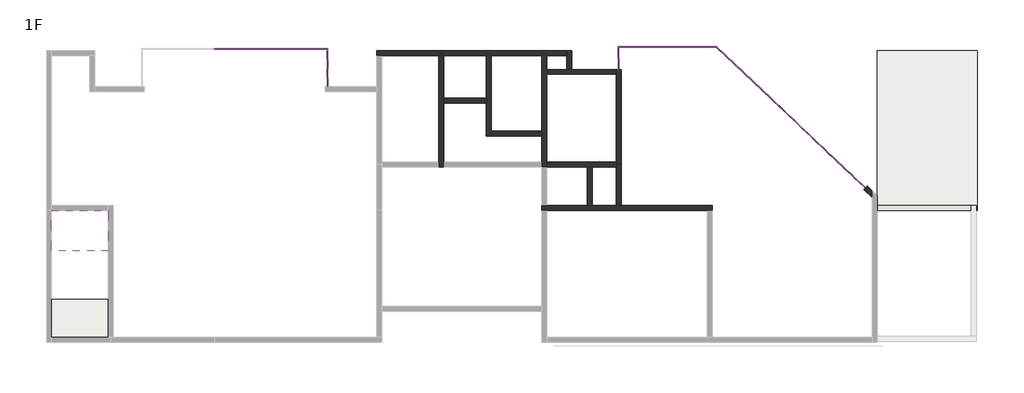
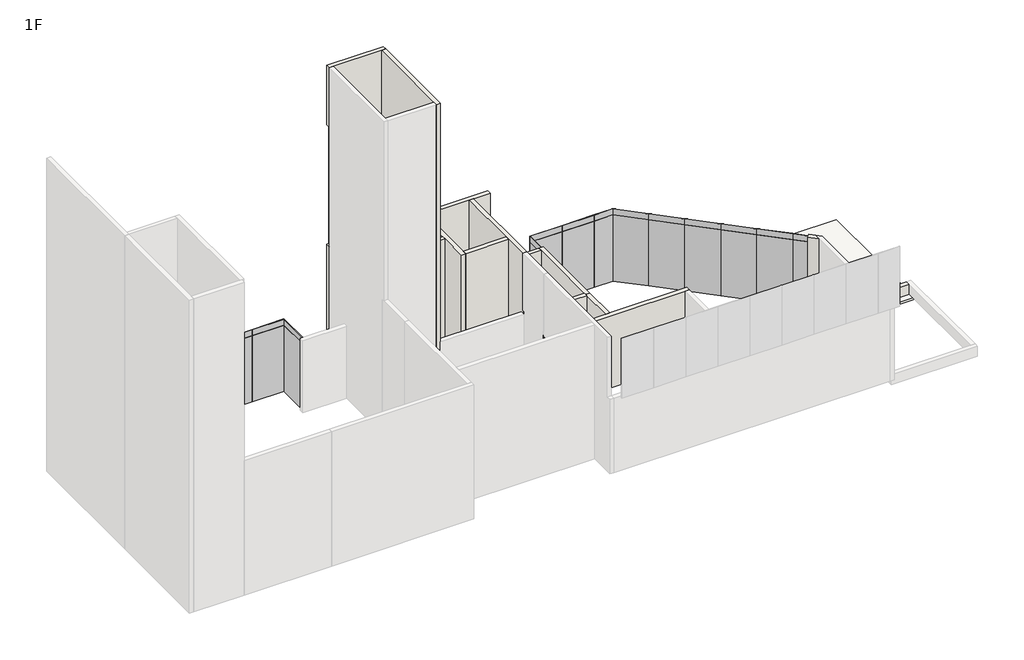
# One storey, part 2 of 2: 30 plates, 17 walls, 2 slabs, 1 roof.
"""IFC4 building model written with IfcOpenShell, lengths in millimetres."""

from ifc_helpers import new_model, si_unit, frame, origin, origin_with_axes, place, context, project, spatial, polyline, outline, extrude, faceted_brep, transform, mapped, element, save
from components import plate_0c29ff76, plate_bc78ace2, plate_c1cd2605, plate_ada13676, plate_6fba4545, plate_74756071, plate_56329b22, plate_8ec1f512, plate_21902d22, plate_5becea1c, plate_f1ae9960

model = new_model("IFC4")

# Units and contexts
model_context = context("Model", 3, world=origin())
ifc_project = project(units=[si_unit("LENGTHUNIT", "METRE", prefix="MILLI")], contexts=[model_context])

# Site, building, storey
site = spatial("IfcSite", under=ifc_project)
building = spatial("IfcBuilding", under=site)
storey = spatial("IfcBuildingStorey", under=building, Name="1F", Elevation=0.0)

# Plates
placement = place(None, origin())
element("IfcPlate", 1, ObjectType="系统嵌板 : 玻璃", at=placement, inside=storey, context=model_context, shape_type="SweptSolid", body=[
    extrude(outline(polyline([(24897.1295712, 7819.9870919), (23569.8153734, 9079.8033564), (23587.0259781, 9097.936064), (24914.3401759, 7838.1197995), (24897.1295712, 7819.9870919)])), frame((0.0, 0.0, 4000.0), z_axis=(0.0, 0.0, 1.0), x_axis=(1.0, 0.0, 0.0)), (0.0, 0.0, 1.0), 350.0),
])
element("IfcPlate", 2, ObjectType="系统嵌板 : 玻璃", at=placement, inside=storey, context=model_context, shape_type="SweptSolid", body=[
    extrude(outline(polyline([(26224.443769, 6560.1708273), (24897.1295712, 7819.9870919), (24914.3401759, 7838.1197995), (26241.6543737, 6578.303535), (26224.443769, 6560.1708273)])), frame((0.0, 0.0, 4000.0), z_axis=(0.0, 0.0, 1.0), x_axis=(1.0, 0.0, 0.0)), (0.0, 0.0, 1.0), 350.0),
])
plate_shape = plate_0c29ff76(model_context)
element("IfcPlate", 3, ObjectType="系统嵌板 : 玻璃", at=placement, inside=storey, context=model_context, shape_type="MappedRepresentation", body=[
    mapped(plate_shape, transform((3824.5620884, 8988.8697102, 0.0), x_axis=(-1.0, 0.0, 0.0), y_axis=(0.0, -1.0, 0.0), z_axis=(0.0, 0.0, 1.0))),
])
element("IfcPlate", 4, ObjectType="系统嵌板 : 玻璃", at=placement, inside=storey, context=model_context, shape_type="MappedRepresentation", body=[
    mapped(plate_shape, transform((1994.5620884, 8988.8697102, 0.0), x_axis=(-1.0, 0.0, 0.0), y_axis=(0.0, -1.0, 0.0), z_axis=(0.0, 0.0, 1.0))),
])
element("IfcPlate", 5, ObjectType="系统嵌板 : 玻璃", at=placement, inside=storey, context=model_context, shape_type="MappedRepresentation", body=[
    mapped(plate_shape, transform((164.5620884, 8988.8697102, 0.0), x_axis=(-1.0, 0.0, 0.0), y_axis=(0.0, -1.0, 0.0), z_axis=(0.0, 0.0, 1.0))),
])
element("IfcPlate", 6, ObjectType="系统嵌板 : 玻璃", at=placement, inside=storey, context=model_context, shape_type="MappedRepresentation", body=[
    mapped(plate_shape, transform((4739.5620884, 8063.8697102, 0.0), x_axis=(0.0, 1.0, 0.0), y_axis=(-1.0, 0.0, 0.0), z_axis=(0.0, 0.0, 1.0))),
])
element("IfcPlate", 7, ObjectType="系统嵌板 : 玻璃", at=placement, inside=storey, context=model_context, shape_type="MappedRepresentation", body=[
    mapped(plate_shape, transform((19754.5620884, 9088.8697102, 0.0), x_axis=(1.0, 0.0, 0.0), y_axis=(0.0, 1.0, 0.0), z_axis=(0.0, 0.0, 1.0))),
])
element("IfcPlate", 8, ObjectType="系统嵌板 : 玻璃", at=placement, inside=storey, context=model_context, shape_type="MappedRepresentation", body=[
    mapped(plate_shape, transform((21584.5620884, 9088.8697102, 0.0), x_axis=(1.0, 0.0, 0.0), y_axis=(0.0, 1.0, 0.0), z_axis=(0.0, 0.0, 1.0))),
])
element("IfcPlate", 9, ObjectType="系统嵌板 : 玻璃", at=placement, inside=storey, context=model_context, shape_type="MappedRepresentation", body=[
    mapped(plate_shape, transform((24242.0777747, 8458.9615779, 0.0), x_axis=(0.7253083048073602, -0.6884241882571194, 0.0), y_axis=(0.6884241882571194, 0.7253083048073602, 0.0), z_axis=(0.0, 0.0, 1.0))),
])
element("IfcPlate", 10, ObjectType="系统嵌板 : 玻璃", at=placement, inside=storey, context=model_context, shape_type="MappedRepresentation", body=[
    mapped(plate_shape, transform((25569.3919725, 7199.1453134, 0.0), x_axis=(0.7253083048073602, -0.6884241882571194, 0.0), y_axis=(0.6884241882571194, 0.7253083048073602, 0.0), z_axis=(0.0, 0.0, 1.0))),
])
element("IfcPlate", 11, ObjectType="系统嵌板 : 玻璃", at=placement, inside=storey, context=model_context, shape_type="MappedRepresentation", body=[
    mapped(plate_shape, transform((26896.7061703, 5939.3290489, 0.0), x_axis=(0.7253083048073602, -0.6884241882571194, 0.0), y_axis=(0.6884241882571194, 0.7253083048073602, 0.0), z_axis=(0.0, 0.0, 1.0))),
])
element("IfcPlate", 12, ObjectType="系统嵌板 : 玻璃", at=placement, inside=storey, context=model_context, shape_type="MappedRepresentation", body=[
    mapped(plate_shape, transform((28224.0203681, 4679.5127844, 0.0), x_axis=(0.7253083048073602, -0.6884241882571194, 0.0), y_axis=(0.6884241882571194, 0.7253083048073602, 0.0), z_axis=(0.0, 0.0, 1.0))),
])
element("IfcPlate", 13, ObjectType="系统嵌板 : 玻璃", at=placement, inside=storey, context=model_context, shape_type="MappedRepresentation", body=[
    mapped(plate_shape, transform((29551.3345659, 3419.6965199, 0.0), x_axis=(0.7253083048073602, -0.6884241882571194, 0.0), y_axis=(0.6884241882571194, 0.7253083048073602, 0.0), z_axis=(0.0, 0.0, 1.0))),
])
plate_2_shape = plate_bc78ace2(model_context)
element("IfcPlate", 14, ObjectType="系统嵌板 : 玻璃", at=placement, inside=storey, context=model_context, shape_type="MappedRepresentation", body=[
    mapped(plate_2_shape, transform((4739.5620884, 8983.8697102, 0.0), x_axis=(0.0, 1.0, 0.0), y_axis=(-1.0, 0.0, 0.0), z_axis=(0.0, 0.0, 1.0))),
])
plate_3_shape = plate_c1cd2605(model_context)
element("IfcPlate", 15, ObjectType="系统嵌板 : 玻璃", at=placement, inside=storey, context=model_context, shape_type="MappedRepresentation", body=[
    mapped(plate_3_shape, transform((18839.5620884, 8538.8697102, 0.0), x_axis=(0.0, -1.0, 0.0), y_axis=(1.0, 0.0, 0.0), z_axis=(0.0, 0.0, 1.0))),
])
plate_4_shape = plate_ada13676(model_context)
element("IfcPlate", 16, ObjectType="系统嵌板 : 玻璃", at=placement, inside=storey, context=model_context, shape_type="MappedRepresentation", body=[
    mapped(plate_4_shape, transform((30493.6372117, 2525.3128077, 0.0), x_axis=(0.7253083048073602, -0.6884241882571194, 0.0), y_axis=(0.6884241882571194, 0.7253083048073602, 0.0), z_axis=(0.0, 0.0, 1.0))),
])
plate_5_shape = plate_6fba4545(model_context)
element("IfcPlate", 17, ObjectType="系统嵌板 : 玻璃", at=placement, inside=storey, context=model_context, shape_type="MappedRepresentation", body=[
    mapped(plate_5_shape, transform((23038.9913821, 9088.8697102, 0.0), x_axis=(1.0, 0.0, 0.0), y_axis=(0.0, 1.0, 0.0), z_axis=(0.0, 0.0, 1.0))),
])
plate_6_shape = plate_74756071(model_context)
element("IfcPlate", 18, ObjectType="系统嵌板 : 玻璃", at=placement, inside=storey, context=model_context, shape_type="MappedRepresentation", body=[
    mapped(plate_6_shape, transform((3824.5620884, 8988.8697102, 4000.0), x_axis=(-1.0, 0.0, 0.0), y_axis=(0.0, -1.0, 0.0), z_axis=(0.0, 0.0, 1.0))),
])
element("IfcPlate", 19, ObjectType="系统嵌板 : 玻璃", at=placement, inside=storey, context=model_context, shape_type="MappedRepresentation", body=[
    mapped(plate_6_shape, transform((1994.5620884, 8988.8697102, 4000.0), x_axis=(-1.0, 0.0, 0.0), y_axis=(0.0, -1.0, 0.0), z_axis=(0.0, 0.0, 1.0))),
])
element("IfcPlate", 20, ObjectType="系统嵌板 : 玻璃", at=placement, inside=storey, context=model_context, shape_type="MappedRepresentation", body=[
    mapped(plate_6_shape, transform((164.5620884, 8988.8697102, 4000.0), x_axis=(-1.0, 0.0, 0.0), y_axis=(0.0, -1.0, 0.0), z_axis=(0.0, 0.0, 1.0))),
])
element("IfcPlate", 21, ObjectType="系统嵌板 : 玻璃", at=placement, inside=storey, context=model_context, shape_type="MappedRepresentation", body=[
    mapped(plate_6_shape, transform((19754.5620884, 9088.8697102, 4000.0), x_axis=(1.0, 0.0, 0.0), y_axis=(0.0, 1.0, 0.0), z_axis=(0.0, 0.0, 1.0))),
])
element("IfcPlate", 22, ObjectType="系统嵌板 : 玻璃", at=placement, inside=storey, context=model_context, shape_type="MappedRepresentation", body=[
    mapped(plate_6_shape, transform((21584.5620884, 9088.8697102, 4000.0), x_axis=(1.0, 0.0, 0.0), y_axis=(0.0, 1.0, 0.0), z_axis=(0.0, 0.0, 1.0))),
])
element("IfcPlate", 23, ObjectType="系统嵌板 : 玻璃", at=placement, inside=storey, context=model_context, shape_type="MappedRepresentation", body=[
    mapped(plate_6_shape, transform((26896.7061703, 5939.3290489, 4000.0), x_axis=(0.7253083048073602, -0.6884241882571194, 0.0), y_axis=(0.6884241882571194, 0.7253083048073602, 0.0), z_axis=(0.0, 0.0, 1.0))),
])
element("IfcPlate", 24, ObjectType="系统嵌板 : 玻璃", at=placement, inside=storey, context=model_context, shape_type="MappedRepresentation", body=[
    mapped(plate_6_shape, transform((28224.0203681, 4679.5127844, 4000.0), x_axis=(0.7253083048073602, -0.6884241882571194, 0.0), y_axis=(0.6884241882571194, 0.7253083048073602, 0.0), z_axis=(0.0, 0.0, 1.0))),
])
element("IfcPlate", 25, ObjectType="系统嵌板 : 玻璃", at=placement, inside=storey, context=model_context, shape_type="MappedRepresentation", body=[
    mapped(plate_6_shape, transform((29551.3345659, 3419.6965199, 4000.0), x_axis=(0.7253083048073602, -0.6884241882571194, 0.0), y_axis=(0.6884241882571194, 0.7253083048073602, 0.0), z_axis=(0.0, 0.0, 1.0))),
])
plate_7_shape = plate_56329b22(model_context)
element("IfcPlate", 26, ObjectType="系统嵌板 : 玻璃", at=placement, inside=storey, context=model_context, shape_type="MappedRepresentation", body=[
    mapped(plate_7_shape, transform((4739.5620884, 8983.8697102, 4000.0), x_axis=(0.0, 1.0, 0.0), y_axis=(-1.0, 0.0, 0.0), z_axis=(0.0, 0.0, 1.0))),
])
plate_8_shape = plate_8ec1f512(model_context)
element("IfcPlate", 27, ObjectType="系统嵌板 : 玻璃", at=placement, inside=storey, context=model_context, shape_type="MappedRepresentation", body=[
    mapped(plate_8_shape, transform((4739.5620884, 8063.8697102, 4000.0), x_axis=(0.0, 1.0, 0.0), y_axis=(-1.0, 0.0, 0.0), z_axis=(0.0, 0.0, 1.0))),
])
plate_9_shape = plate_21902d22(model_context)
element("IfcPlate", 28, ObjectType="系统嵌板 : 玻璃", at=placement, inside=storey, context=model_context, shape_type="MappedRepresentation", body=[
    mapped(plate_9_shape, transform((23038.9913821, 9088.8697102, 4000.0), x_axis=(1.0, 0.0, 0.0), y_axis=(0.0, 1.0, 0.0), z_axis=(0.0, 0.0, 1.0))),
])
plate_10_shape = plate_5becea1c(model_context)
element("IfcPlate", 29, ObjectType="系统嵌板 : 玻璃", at=placement, inside=storey, context=model_context, shape_type="MappedRepresentation", body=[
    mapped(plate_10_shape, transform((18839.5620884, 8538.8697102, 4000.0), x_axis=(0.0, -1.0, 0.0), y_axis=(1.0, 0.0, 0.0), z_axis=(0.0, 0.0, 1.0))),
])
plate_11_shape = plate_f1ae9960(model_context)
element("IfcPlate", 30, ObjectType="系统嵌板 : 玻璃", at=placement, inside=storey, context=model_context, shape_type="MappedRepresentation", body=[
    mapped(plate_11_shape, transform((30493.6372117, 2525.3128077, 4000.0), x_axis=(0.7253083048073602, -0.6884241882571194, 0.0), y_axis=(0.6884241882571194, 0.7253083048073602, 0.0), z_axis=(0.0, 0.0, 1.0))),
])

# Roof
element("IfcRoof", 31, ObjectType="常规 - 120", at=placement, inside=storey, context=model_context, shape_type="SweptSolid", body=[
    extrude(outline(polyline([(36219.5620884, 8888.8697102), (36219.5620884, 1138.8697102), (31359.5620884, 1138.8697102), (31359.5620884, 8888.8697102), (36219.5620884, 8888.8697102)])), frame((0.0, 0.0, -720.0), z_axis=(0.0, 0.0, 1.0), x_axis=(1.0, 0.0, 0.0)), (0.0, 0.0, 1.0), 120.0),
])

# Slabs
element("IfcSlab", 32, ObjectType="常规 - 150mm", at=placement, inside=storey, context=model_context, shape_type="SweptSolid", body=[
    extrude(outline(polyline([(-5880.4379116, -3161.1302898), (-5880.4379116, -5011.1302898), (-8640.4379116, -5011.1302898), (-8640.4379116, -3161.1302898), (-5880.4379116, -3161.1302898)])), frame((0.0, 0.0, -150.0), z_axis=(0.0, 0.0, 1.0), x_axis=(1.0, 0.0, 0.0)), (0.0, 0.0, 1.0), 150.0),
])
element("IfcSlab", 33, ObjectType="常规 - 150mm", at=placement, inside=storey, context=model_context, shape_type="SweptSolid", body=[
    extrude(outline(polyline([(-8640.4379116, -821.1302898), (-8640.4379116, 1148.8697102), (-5880.4379116, 1148.8697102), (-5880.4379116, -821.1302898), (-8640.4379116, -821.1302898)])), frame((0.0, 0.0, 1450.0), z_axis=(0.0, 0.0, 1.0), x_axis=(1.0, 0.0, 0.0)), (0.0, 0.0, 1.0), 150.0),
])

# Walls
element("IfcWall", 34, ObjectType="常规 - 240mm", at=placement, inside=storey, context=model_context, shape_type="Brep", body=[
    faceted_brep([(16319.5620884, 8888.8697102, 0.0), (15119.5620884, 8888.8697102, 0.0), (15119.5620884, 8888.8697102, 4350.0), (16319.5620884, 8888.8697102, 4350.0), (16319.5620884, 8648.8697102, 0.0), (16319.5620884, 8648.8697102, 4350.0), (15119.5620884, 8648.8697102, 4350.0), (15119.5620884, 8648.8697102, 0.0), (15359.5620884, 8648.8697102, 0.0)], [[[0, 1, 2, 3]], [[4, 5, 6, 7, 8]], [[1, 0, 4, 8, 7]], [[3, 2, 6, 5]], [[2, 1, 7, 6]], [[0, 3, 5, 4]]]),
])
element("IfcWall", 35, ObjectType="常规 - 240mm 2", at=placement, inside=storey, context=model_context, shape_type="Brep", body=[
    faceted_brep([(10119.5620884, 8648.8697102, 18900.0), (10119.5620884, 8648.8697102, 0.0), (10119.5620884, 3488.8697102, 0.0), (10119.5620884, 3248.8697102, 0.0), (10119.5620884, 3248.8697102, 18900.0), (10119.5620884, 3488.8697102, 18900.0), (10359.5620884, 8648.8697102, 0.0), (10359.5620884, 8648.8697102, 15300.0), (10359.5620884, 8648.8697102, 18900.0), (10359.5620884, 3248.8697102, 18900.0), (10359.5620884, 3248.8697102, 8100.0), (10359.5620884, 3248.8697102, 4500.0), (10359.5620884, 3248.8697102, 0.0), (10359.5620884, 3488.8697102, 0.0), (10359.5620884, 6348.8697102, 0.0), (10359.5620884, 6588.8697102, 0.0), (10239.5620884, 8648.8697102, 0.0)], [[[0, 1, 2, 3, 4, 5]], [[6, 7, 8, 9, 10, 11, 12, 13, 14, 15]], [[3, 2, 1, 16, 6, 15, 14, 13, 12]], [[0, 5, 4, 9, 8]], [[0, 8, 7, 6, 16, 1]], [[3, 12, 11, 10, 9, 4]]]),
])
element("IfcWall", 36, ObjectType="常规 - 240mm", at=placement, inside=storey, context=model_context, shape_type="Brep", body=[
    faceted_brep([(18719.5620884, 3488.8697102, 0.0), (15359.5620884, 3488.8697102, 0.0), (15359.5620884, 3488.8697102, 4350.0), (18719.5620884, 3488.8697102, 4350.0), (18719.5620884, 3248.8697102, 0.0), (18719.5620884, 3248.8697102, 4350.0), (17559.5620884, 3248.8697102, 4350.0), (17319.5620884, 3248.8697102, 4350.0), (15359.5620884, 3248.8697102, 4350.0), (15359.5620884, 3248.8697102, 0.0), (17319.5620884, 3248.8697102, 0.0), (17559.5620884, 3248.8697102, 0.0), (18719.5620884, 3368.8697102, 0.0), (18719.5620884, 3368.8697102, 4350.0)], [[[0, 1, 2, 3]], [[4, 5, 6, 7, 8, 9, 10, 11]], [[1, 0, 12, 4, 11, 10, 9]], [[0, 3, 13, 5, 4, 12]], [[2, 1, 9, 8]], [[3, 2, 8, 7, 6, 5, 13]]]),
])
element("IfcWall", 37, ObjectType="常规 - 240mm 2", at=placement, inside=storey, context=model_context, shape_type="SweptSolid", body=[
    extrude(outline(polyline([(10359.5620884, 6588.8697102), (12419.5620884, 6588.8697102), (12419.5620884, 6348.8697102), (10359.5620884, 6348.8697102), (10359.5620884, 6588.8697102)])), origin_with_axes(), (0.0, 0.0, 1.0), 8100.0),
])
element("IfcWall", 38, ObjectType="常规 - 240mm", at=placement, inside=storey, context=model_context, shape_type="Brep", body=[
    faceted_brep([(15119.5620884, 8648.8697102, 0.0), (15119.5620884, 4988.8697102, 0.0), (15119.5620884, 4748.8697102, 0.0), (15119.5620884, 3488.8697102, 0.0), (15119.5620884, 3248.8697102, 0.0), (15119.5620884, 3248.8697102, 4500.0), (15119.5620884, 3248.8697102, 4650.0), (15119.5620884, 3368.8697102, 4650.0), (15119.5620884, 3368.8697102, 8100.0), (15119.5620884, 4748.8697102, 8100.0), (15119.5620884, 4988.8697102, 8100.0), (15119.5620884, 8648.8697102, 8100.0), (15119.5620884, 8648.8697102, 4350.0), (15359.5620884, 8648.8697102, 0.0), (15359.5620884, 8648.8697102, 8100.0), (15359.5620884, 3368.8697102, 8100.0), (15359.5620884, 3368.8697102, 4650.0), (15359.5620884, 3248.8697102, 4650.0), (15359.5620884, 3248.8697102, 4350.0), (15359.5620884, 3248.8697102, 0.0), (15359.5620884, 3488.8697102, 0.0), (15359.5620884, 7748.8697102, 0.0), (15359.5620884, 7988.8697102, 0.0)], [[[0, 1, 2, 3, 4, 5, 6, 7, 8, 9, 10, 11, 12]], [[13, 14, 15, 16, 17, 18, 19, 20, 21, 22]], [[4, 3, 2, 1, 0, 13, 22, 21, 20, 19]], [[11, 10, 9, 8, 15, 14]], [[0, 12, 11, 14, 13]], [[8, 7, 16, 15]], [[16, 7, 6, 17]], [[4, 19, 18, 17, 6, 5]]]),
])
element("IfcWall", 39, ObjectType="常规 - 240mm", at=placement, inside=storey, context=model_context, shape_type="Brep", body=[
    faceted_brep([(12419.5620884, 8648.8697102, 0.0), (12419.5620884, 6588.8697102, 0.0), (12419.5620884, 6348.8697102, 0.0), (12419.5620884, 4748.8697102, 0.0), (12419.5620884, 4748.8697102, 8100.0), (12419.5620884, 6348.8697102, 8100.0), (12419.5620884, 6588.8697102, 8100.0), (12419.5620884, 8648.8697102, 8100.0), (12659.5620884, 8648.8697102, 0.0), (12659.5620884, 8648.8697102, 8100.0), (12659.5620884, 4988.8697102, 8100.0), (12659.5620884, 4748.8697102, 8100.0), (12659.5620884, 4748.8697102, 0.0), (12659.5620884, 4988.8697102, 0.0)], [[[0, 1, 2, 3, 4, 5, 6, 7]], [[8, 9, 10, 11, 12, 13]], [[3, 2, 1, 0, 8, 13, 12]], [[7, 6, 5, 4, 11, 10, 9]], [[4, 3, 12, 11]], [[0, 7, 9, 8]]]),
])
element("IfcWall", 40, ObjectType="常规 - 240mm 2", at=placement, inside=storey, context=model_context, shape_type="Brep", body=[
    faceted_brep([(23359.5620884, 1388.8697102, 0.0), (18959.5620884, 1388.8697102, 0.0), (18719.5620884, 1388.8697102, 0.0), (17559.5620884, 1388.8697102, 0.0), (17319.5620884, 1388.8697102, 0.0), (15359.5620884, 1388.8697102, 0.0), (15119.5620884, 1388.8697102, 0.0), (15119.5620884, 1388.8697102, 4350.0), (17319.5620884, 1388.8697102, 4350.0), (17559.5620884, 1388.8697102, 4350.0), (18719.5620884, 1388.8697102, 4350.0), (18959.5620884, 1388.8697102, 4350.0), (23359.5620884, 1388.8697102, 4350.0), (23359.5620884, 1148.8697102, 0.0), (23359.5620884, 1148.8697102, 4350.0), (23119.5620884, 1148.8697102, 4350.0), (15359.5620884, 1148.8697102, 4350.0), (15119.5620884, 1148.8697102, 4350.0), (15119.5620884, 1148.8697102, 0.0), (15359.5620884, 1148.8697102, 0.0), (23119.5620884, 1148.8697102, 0.0), (15119.5620884, 1268.8697102, 4350.0)], [[[0, 1, 2, 3, 4, 5, 6, 7, 8, 9, 10, 11, 12]], [[13, 14, 15, 16, 17, 18, 19, 20]], [[6, 5, 4, 3, 2, 1, 0, 13, 20, 19, 18]], [[0, 12, 14, 13]], [[7, 6, 18, 17, 21]], [[12, 11, 10, 9, 8, 7, 21, 17, 16, 15, 14]]]),
])
element("IfcWall", 41, ObjectType="常规 - 240mm", at=placement, inside=storey, context=model_context, shape_type="Brep", body=[
    faceted_brep([(16319.5620884, 8888.8697102, 0.0), (16319.5620884, 8648.8697102, 0.0), (16319.5620884, 7988.8697102, 0.0), (16319.5620884, 7988.8697102, 4350.0), (16319.5620884, 8648.8697102, 4350.0), (16319.5620884, 8888.8697102, 4350.0), (16559.5620884, 8888.8697102, 0.0), (16559.5620884, 8888.8697102, 4350.0), (16559.5620884, 7988.8697102, 4350.0), (16559.5620884, 7988.8697102, 0.0)], [[[0, 1, 2, 3, 4, 5]], [[6, 7, 8, 9]], [[2, 1, 0, 6, 9]], [[3, 2, 9, 8]], [[5, 4, 3, 8, 7]], [[0, 5, 7, 6]]]),
])
element("IfcWall", 42, ObjectType="常规 - 240mm", at=placement, inside=storey, context=model_context, shape_type="Brep", body=[
    faceted_brep([(15359.5620884, 7748.8697102, 0.0), (18719.5620884, 7748.8697102, 0.0), (18719.5620884, 7748.8697102, 4350.0), (15359.5620884, 7748.8697102, 4350.0), (15359.5620884, 7988.8697102, 0.0), (15359.5620884, 7988.8697102, 4350.0), (16319.5620884, 7988.8697102, 4350.0), (16559.5620884, 7988.8697102, 4350.0), (18719.5620884, 7988.8697102, 4350.0), (18719.5620884, 7988.8697102, 0.0), (16559.5620884, 7988.8697102, 0.0), (16319.5620884, 7988.8697102, 0.0)], [[[0, 1, 2, 3]], [[4, 5, 6, 7, 8, 9, 10, 11]], [[1, 0, 4, 11, 10, 9]], [[2, 1, 9, 8]], [[0, 3, 5, 4]], [[3, 2, 8, 7, 6, 5]]]),
])
element("IfcWall", 43, ObjectType="常规 - 240mm", at=placement, inside=storey, context=model_context, shape_type="SweptSolid", body=[
    extrude(outline(polyline([(17319.5620884, 1388.8697102), (17319.5620884, 3248.8697102), (17559.5620884, 3248.8697102), (17559.5620884, 1388.8697102), (17319.5620884, 1388.8697102)])), origin_with_axes(), (0.0, 0.0, 1.0), 4350.0),
])
element("IfcWall", 44, ObjectType="常规 - 240mm", at=placement, inside=storey, context=model_context, shape_type="Brep", body=[
    faceted_brep([(18719.5620884, 7988.8697102, 0.0), (18719.5620884, 7748.8697102, 0.0), (18719.5620884, 3488.8697102, 0.0), (18719.5620884, 3368.8697102, 0.0), (18719.5620884, 3368.8697102, 4350.0), (18719.5620884, 3488.8697102, 4350.0), (18719.5620884, 7748.8697102, 4350.0), (18719.5620884, 7988.8697102, 4350.0), (18959.5620884, 7988.8697102, 0.0), (18959.5620884, 7988.8697102, 4350.0), (18959.5620884, 3368.8697102, 4350.0), (18959.5620884, 3368.8697102, 0.0)], [[[0, 1, 2, 3, 4, 5, 6, 7]], [[8, 9, 10, 11]], [[3, 2, 1, 0, 8, 11]], [[4, 3, 11, 10]], [[0, 7, 9, 8]], [[7, 6, 5, 4, 10, 9]]]),
])
element("IfcWall", 45, ObjectType="常规 - 240mm", at=placement, inside=storey, context=model_context, shape_type="Brep", body=[
    faceted_brep([(18719.5620884, 3368.8697102, 0.0), (18719.5620884, 3248.8697102, 0.0), (18719.5620884, 1388.8697102, 0.0), (18719.5620884, 1388.8697102, 4350.0), (18719.5620884, 3248.8697102, 4350.0), (18719.5620884, 3368.8697102, 4350.0), (18959.5620884, 3368.8697102, 0.0), (18959.5620884, 3368.8697102, 4350.0), (18959.5620884, 1388.8697102, 4350.0), (18959.5620884, 1388.8697102, 0.0)], [[[0, 1, 2, 3, 4, 5]], [[6, 7, 8, 9]], [[2, 1, 0, 6, 9]], [[0, 5, 7, 6]], [[3, 2, 9, 8]], [[5, 4, 3, 8, 7]]]),
])
element("IfcWall", 46, ObjectType="常规 - 240mm 2", at=placement, inside=storey, context=model_context, shape_type="SweptSolid", body=[
    extrude(outline(polyline([(31119.5620884, 1765.7712149), (30708.0946871, 2156.3142569), (30873.3164923, 2330.3882501), (31119.5620884, 2096.6649858), (31119.5620884, 1765.7712149)])), origin_with_axes(), (0.0, 0.0, 1.0), 4350.0),
])
element("IfcWall", 47, ObjectType="常规 - 240mm", at=placement, inside=storey, context=model_context, shape_type="Brep", body=[
    faceted_brep([(10239.5620884, 8888.8697102, 15300.0), (10239.5620884, 8888.8697102, 8100.0), (10239.5620884, 8888.8697102, 0.0), (7119.5620884, 8888.8697102, 0.0), (7119.5620884, 8888.8697102, 8100.0), (7239.5620884, 8888.8697102, 8100.0), (7239.5620884, 8888.8697102, 15300.0), (7119.5620884, 8888.8697102, 15300.0), (7119.5620884, 8888.8697102, 18900.0), (10359.5620884, 8888.8697102, 18900.0), (10359.5620884, 8888.8697102, 15300.0), (10239.5620884, 8648.8697102, 0.0), (10239.5620884, 8648.8697102, 8100.0), (10239.5620884, 8648.8697102, 15300.0), (10359.5620884, 8648.8697102, 15300.0), (10359.5620884, 8648.8697102, 18900.0), (10119.5620884, 8648.8697102, 18900.0), (7359.5620884, 8648.8697102, 18900.0), (7119.5620884, 8648.8697102, 18900.0), (7119.5620884, 8648.8697102, 15300.0), (7239.5620884, 8648.8697102, 15300.0), (7239.5620884, 8648.8697102, 8100.0), (7119.5620884, 8648.8697102, 8100.0), (7119.5620884, 8648.8697102, 0.0), (7359.5620884, 8648.8697102, 0.0), (10119.5620884, 8648.8697102, 0.0)], [[[0, 1, 2, 3, 4, 5, 6, 7, 8, 9, 10]], [[11, 12, 13, 14, 15, 16, 17, 18, 19, 20, 21, 22, 23, 24, 25]], [[3, 2, 11, 25, 24, 23]], [[9, 8, 18, 17, 16, 15]], [[21, 5, 4, 22]], [[4, 3, 23, 22]], [[0, 13, 12, 11, 2, 1]], [[10, 14, 13, 0]], [[10, 9, 15, 14]], [[6, 5, 21, 20]], [[19, 7, 6, 20]], [[8, 7, 19, 18]]]),
])
element("IfcWall", 48, ObjectType="常规 - 240mm", at=placement, inside=storey, context=model_context, shape_type="Brep", body=[
    faceted_brep([(16319.5620884, 8888.8697102, 8100.0), (16319.5620884, 8888.8697102, 4350.0), (16319.5620884, 8888.8697102, 0.0), (10239.5620884, 8888.8697102, 0.0), (10239.5620884, 8888.8697102, 8100.0), (16319.5620884, 8648.8697102, 0.0), (16319.5620884, 8648.8697102, 4650.0), (16319.5620884, 8648.8697102, 8100.0), (12659.5620884, 8648.8697102, 8100.0), (12419.5620884, 8648.8697102, 8100.0), (10239.5620884, 8648.8697102, 8100.0), (10239.5620884, 8648.8697102, 0.0), (10359.5620884, 8648.8697102, 0.0), (12419.5620884, 8648.8697102, 0.0), (12659.5620884, 8648.8697102, 0.0)], [[[0, 1, 2, 3, 4]], [[5, 6, 7, 8, 9, 10, 11, 12, 13, 14]], [[3, 2, 5, 14, 13, 12, 11]], [[4, 3, 11, 10]], [[0, 4, 10, 9, 8, 7]], [[0, 7, 6, 5, 2, 1]]]),
])
element("IfcWall", 49, ObjectType="常规 - 240mm 2", at=placement, inside=storey, context=model_context, shape_type="SweptSolid", body=[
    extrude(outline(polyline([(12659.5620884, 4988.8697102), (15119.5620884, 4988.8697102), (15119.5620884, 4748.8697102), (12659.5620884, 4748.8697102), (12659.5620884, 4988.8697102)])), origin_with_axes(), (0.0, 0.0, 1.0), 8100.0),
])
element("IfcWall", 50, ObjectType="常规 - 240mm", at=placement, inside=storey, context=model_context, shape_type="SweptSolid", body=[
    extrude(outline(polyline([(31359.5620884, 1388.8697102), (35919.5620884, 1388.8697102), (35919.5620884, 1148.8697102), (31359.5620884, 1148.8697102), (31359.5620884, 1388.8697102)])), frame((0.0, 0.0, -300.0), z_axis=(0.0, 0.0, 1.0), x_axis=(1.0, 0.0, 0.0)), (0.0, 0.0, 1.0), 600.0),
])

save(model, "model.ifc")
